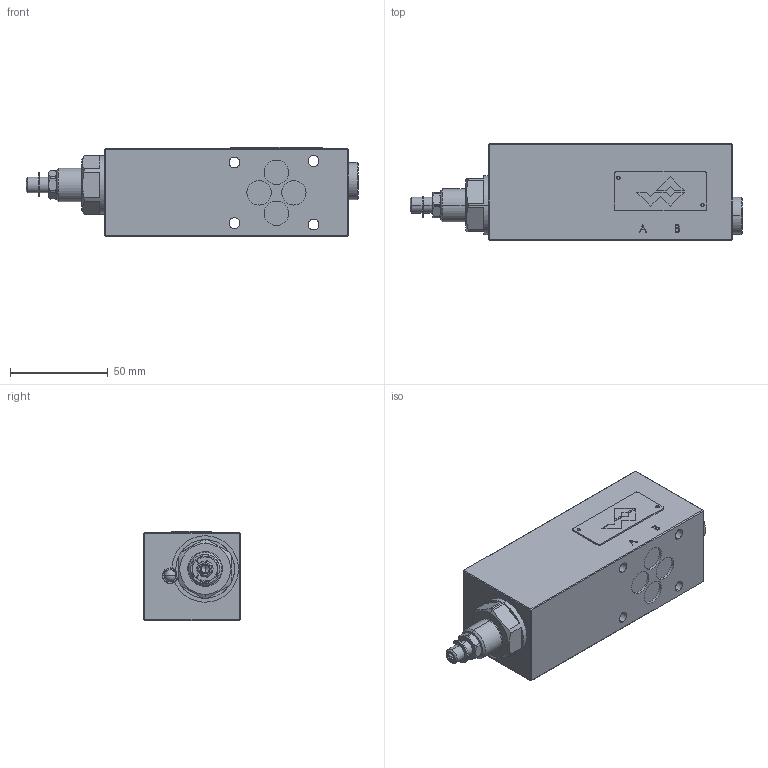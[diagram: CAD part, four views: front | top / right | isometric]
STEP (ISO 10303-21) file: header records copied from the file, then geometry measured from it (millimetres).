
FILE_DESCRIPTION (( 'STEP AP214' ), '1' );
FILE_NAME ('MVSSA06-A.STEP', '2024-02-22T09:26:37', ( '' ), ( '' ), 'SwSTEP 2.0', 'SolidWorks 2022', '' );
FILE_SCHEMA (( 'AUTOMOTIVE_DESIGN' ));
Length unit declared in the file: millimetre
Products named in the file (1): MVSSA06-A
Bounding box: 169.8 x 49.5 x 45.8 mm (x, y, z)
Volume: 285436 mm3; surface area: 34909.9 mm2
Topology: 1 solids, 1 shells, 293 faces, 718 edges, 453 vertices
Faces by surface type: plane 151, cylinder 85, cone 36, bspline 9, sphere 8, torus 4
Entity records: 12432 total; most frequent: CARTESIAN_POINT 2280, DIRECTION 1497, ORIENTED_EDGE 1428, EDGE_CURVE 714, AXIS2_PLACEMENT_3D 558, VERTEX_POINT 453, LINE 381, VECTOR 381
